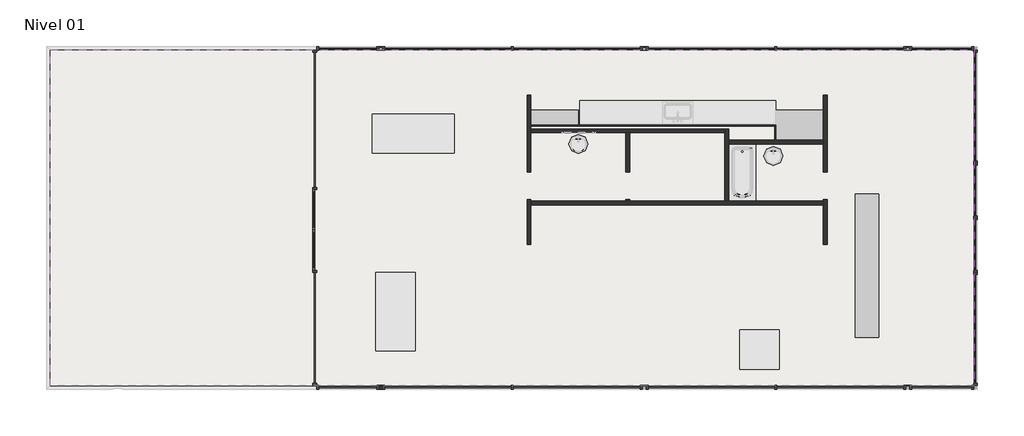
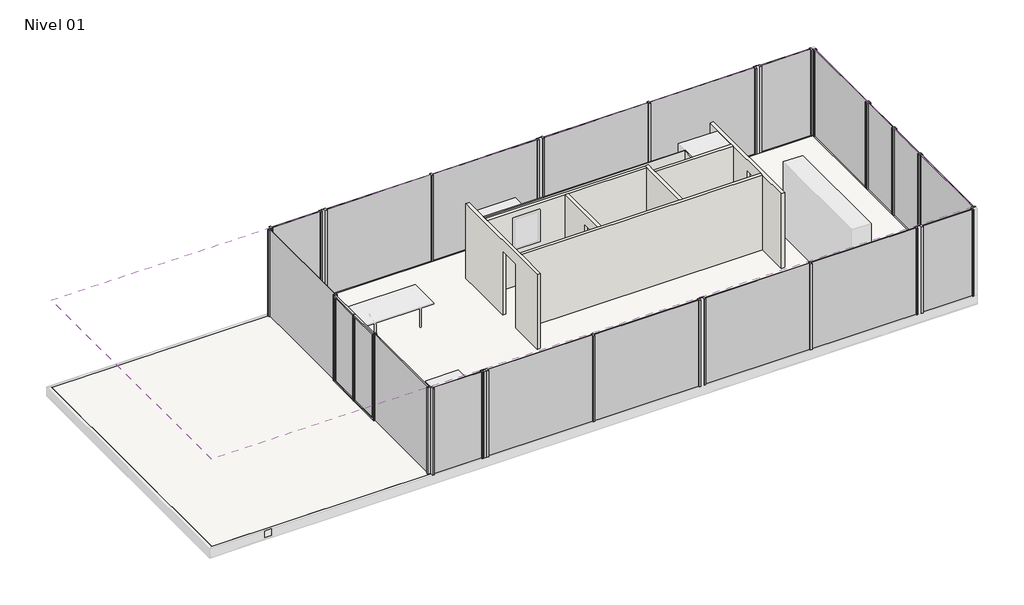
# One storey, part 1 of 2: 32 members, 20 plates, 9 walls, 1 column, 1 covering, 1 slab.
"""IFC4 building model written with IfcOpenShell, lengths in millimetres."""

from ifc_helpers import new_model, si_unit, frame, origin, place, context, project, spatial, polyline, outline, extrude, faceted_brep, transform, mapped, element, save
from components import montante_rectangular_636dfbc0, montante_rectangular_130be25c, montante_rectangular_montante_rectangular_5_x_10_cm_7b851dd1, montante_rectangular_montante_rectangular_5_x_10_cm_ceddc77e, montante_rectangular_montante_rectangular_5_x_10_cm_4366589c, montante_rectangular_montante_rectangular_5_x_10_cm_83dea609, montante_rectangular_montante_rectangular_5_x_10_cm_d18d0f95, montante_rectangular_montante_rectangular_5_x_10_cm_97dcbfa1, panel_acristalado_a23f5c5c, panel_de_sistema_acristalado_16543b9d, panel_de_sistema_acristalado_84c5b434, panel_de_sistema_acristalado_27682961, panel_de_sistema_acristalado_3b98ec13, panel_de_sistema_acristalado_0d9a003f, panel_de_sistema_acristalado_c61f1210, panel_de_sistema_acristalado_69a41de7, panel_de_sistema_acristalado_a5853300, panel_de_sistema_acristalado_f31e4230, panel_de_sistema_acristalado_258ec6b1, panel_de_sistema_acristalado_1c6b91d4, panel_de_sistema_acristalado_2d9a16bb, panel_de_sistema_acristalado_386d4e2f, panel_de_sistema_acristalado_c428148b

model = new_model("IFC4")

# Units and contexts
model_context = context("Model", 3, world=origin())
ifc_project = project(units=[si_unit("LENGTHUNIT", "METRE", prefix="MILLI")], contexts=[model_context])

# Site, building, storey
site = spatial("IfcSite", under=ifc_project)
building = spatial("IfcBuilding", under=site)
storey = spatial("IfcBuildingStorey", under=building, Name="Nivel 01", Elevation=1430.0)

# Column
placement = place(None, origin())
element("IfcColumn", 1, ObjectType="Pilar SQS : SQS 100x100", at=placement, inside=storey, context=model_context, shape_type="SweptSolid", body=[
    extrude(outline(polyline([(-759.4601106, -3393.1309012), (-759.4601106, -3493.1309012), (-859.4601106, -3493.1309012), (-859.4601106, -3393.1309012), (-759.4601106, -3393.1309012)])), frame((0.0, 0.0, 1430.0), z_axis=(0.0, 0.0, 1.0), x_axis=(1.0, 0.0, 0.0)), (0.0, 0.0, 1.0), 2820.0),
])

# Covering
element("IfcCovering", 2, ObjectType="Techo de PYL", at=placement, inside=storey, context=model_context, shape_type="SweptSolid", body=[
    extrude(outline(polyline([(14312.772648, 5166.3380644), (14312.772648, -3412.1309012), (-9219.7825244, -3412.1309012), (-9219.7825244, 5166.3380644), (14312.772648, 5166.3380644)])), frame((0.0, 0.0, 4280.0), z_axis=(0.0, 0.0, 1.0), x_axis=(1.0, 0.0, 0.0)), (0.0, 0.0, 1.0), 15.0),
])

# Members
montante_rectangular_shape = montante_rectangular_636dfbc0(model_context)
element("IfcMember", 3, ObjectType="Montante rectangular : Montante rectangular (encuentro pilares) 5 x 10 cm", at=placement, inside=storey, context=model_context, shape_type="MappedRepresentation", body=[
    mapped(montante_rectangular_shape, transform((-809.4601106, 5197.4380644, 1430.0), x_axis=(1.0, 0.0, 0.0), y_axis=(0.0, -1.0, 0.0), z_axis=(0.0, 0.0, -1.0))),
])
element("IfcMember", 4, ObjectType="Montante rectangular : Montante rectangular (encuentro pilares) 5 x 10 cm", at=placement, inside=storey, context=model_context, shape_type="MappedRepresentation", body=[
    mapped(montante_rectangular_shape, transform((5902.3416135, 5197.4380644, 1430.0), x_axis=(1.0, 0.0, 0.0), y_axis=(0.0, -1.0, 0.0), z_axis=(0.0, 0.0, -1.0))),
])
element("IfcMember", 5, ObjectType="Montante rectangular : Montante rectangular (encuentro pilares) 5 x 10 cm", at=placement, inside=storey, context=model_context, shape_type="MappedRepresentation", body=[
    mapped(montante_rectangular_shape, transform((12614.134717, 5197.4380644, 1430.0), x_axis=(1.0, 0.0, 0.0), y_axis=(0.0, -1.0, 0.0), z_axis=(0.0, 0.0, -1.0))),
])
element("IfcMember", 6, ObjectType="Montante rectangular : Montante rectangular (encuentro pilares) 5 x 10 cm", at=placement, inside=storey, context=model_context, shape_type="MappedRepresentation", body=[
    mapped(montante_rectangular_shape, transform((12614.134717, -3443.1309012, 1430.0), x_axis=(1.0, 0.0, 0.0), y_axis=(0.0, -1.0, 0.0), z_axis=(0.0, 0.0, -1.0))),
])
element("IfcMember", 7, ObjectType="Montante rectangular : Montante rectangular (encuentro pilares) 5 x 10 cm", at=placement, inside=storey, context=model_context, shape_type="MappedRepresentation", body=[
    mapped(montante_rectangular_shape, transform((5902.3416135, -3443.1309012, 1430.0), x_axis=(1.0, 0.0, 0.0), y_axis=(0.0, -1.0, 0.0), z_axis=(0.0, 0.0, -1.0))),
])
element("IfcMember", 8, ObjectType="Montante rectangular : Montante rectangular (encuentro pilares)-iz 5 x 10 cm", at=placement, inside=storey, context=model_context, shape_type="MappedRepresentation", body=[
    mapped(montante_rectangular_shape, transform((-809.4601106, 5197.4380644, 4250.0), x_axis=(-1.0, 0.0, 0.0), y_axis=(0.0, -1.0, 0.0), z_axis=(0.0, 0.0, 1.0))),
])
element("IfcMember", 9, ObjectType="Montante rectangular : Montante rectangular (encuentro pilares)-iz 5 x 10 cm", at=placement, inside=storey, context=model_context, shape_type="MappedRepresentation", body=[
    mapped(montante_rectangular_shape, transform((5902.3416135, 5197.4380644, 4250.0), x_axis=(-1.0, 0.0, 0.0), y_axis=(0.0, -1.0, 0.0), z_axis=(0.0, 0.0, 1.0))),
])
element("IfcMember", 10, ObjectType="Montante rectangular : Montante rectangular (encuentro pilares)-iz 5 x 10 cm", at=placement, inside=storey, context=model_context, shape_type="MappedRepresentation", body=[
    mapped(montante_rectangular_shape, transform((12614.134717, 5197.4380644, 4250.0), x_axis=(-1.0, 0.0, 0.0), y_axis=(0.0, -1.0, 0.0), z_axis=(0.0, 0.0, 1.0))),
])
element("IfcMember", 11, ObjectType="Montante rectangular : Montante rectangular (encuentro pilares)-iz 5 x 10 cm", at=placement, inside=storey, context=model_context, shape_type="MappedRepresentation", body=[
    mapped(montante_rectangular_shape, transform((12614.134717, -3443.1309012, 4250.0), x_axis=(-1.0, 0.0, 0.0), y_axis=(0.0, -1.0, 0.0), z_axis=(0.0, 0.0, 1.0))),
])
element("IfcMember", 12, ObjectType="Montante rectangular : Montante rectangular (encuentro pilares)-iz 5 x 10 cm", at=placement, inside=storey, context=model_context, shape_type="MappedRepresentation", body=[
    mapped(montante_rectangular_shape, transform((5902.3416135, -3443.1309012, 4250.0), x_axis=(-1.0, 0.0, 0.0), y_axis=(0.0, -1.0, 0.0), z_axis=(0.0, 0.0, 1.0))),
])
element("IfcMember", 13, ObjectType="Montante rectangular : Montante rectangular (encuentro pilares)-iz 5 x 10 cm", at=placement, inside=storey, context=model_context, shape_type="MappedRepresentation", body=[
    mapped(montante_rectangular_shape, transform((-809.4601106, -3443.1309012, 4250.0), x_axis=(-1.0, 0.0, 0.0), y_axis=(0.0, -1.0, 0.0), z_axis=(0.0, 0.0, 1.0))),
])
montante_rectangular_2_shape = montante_rectangular_130be25c(model_context)
element("IfcMember", 14, ObjectType="Montante rectangular : Montante rectangular (encuentro pilares)-iz 5 x 10 cm", at=placement, inside=storey, context=model_context, shape_type="MappedRepresentation", body=[
    mapped(montante_rectangular_2_shape, transform((-809.4601106, -3443.1309012, 4250.0), x_axis=(1.0, 0.0, 0.0), y_axis=(0.0, 1.0, 0.0), z_axis=(0.0, 0.0, 1.0))),
])
montante_rectangular_montante_rectangular_5_x_10_cm_shape = montante_rectangular_montante_rectangular_5_x_10_cm_7b851dd1(model_context)
element("IfcMember", 15, ObjectType="Montante rectangular : Montante rectangular - 5 x 10 cm", at=placement, inside=storey, context=model_context, shape_type="MappedRepresentation", body=[
    mapped(montante_rectangular_montante_rectangular_5_x_10_cm_shape, transform((14343.772648, -543.5964184, 1430.0), x_axis=(0.0, -1.0, 0.0), y_axis=(-1.0, 0.0, 0.0), z_axis=(0.0, 0.0, -1.0))),
])
element("IfcMember", 16, ObjectType="Montante rectangular : Montante rectangular - 5 x 10 cm", at=placement, inside=storey, context=model_context, shape_type="MappedRepresentation", body=[
    mapped(montante_rectangular_montante_rectangular_5_x_10_cm_shape, transform((14343.772648, -493.5964184, 1430.0), x_axis=(0.0, -1.0, 0.0), y_axis=(-1.0, 0.0, 0.0), z_axis=(0.0, 0.0, -1.0))),
])
element("IfcMember", 17, ObjectType="Montante rectangular : Montante rectangular - 5 x 10 cm", at=placement, inside=storey, context=model_context, shape_type="MappedRepresentation", body=[
    mapped(montante_rectangular_montante_rectangular_5_x_10_cm_shape, transform((14343.772648, 854.696685, 1430.0), x_axis=(0.0, -1.0, 0.0), y_axis=(-1.0, 0.0, 0.0), z_axis=(0.0, 0.0, -1.0))),
])
element("IfcMember", 18, ObjectType="Montante rectangular : Montante rectangular - 5 x 10 cm", at=placement, inside=storey, context=model_context, shape_type="MappedRepresentation", body=[
    mapped(montante_rectangular_montante_rectangular_5_x_10_cm_shape, transform((14343.772648, 904.696685, 1430.0), x_axis=(0.0, -1.0, 0.0), y_axis=(-1.0, 0.0, 0.0), z_axis=(0.0, 0.0, -1.0))),
])
element("IfcMember", 19, ObjectType="Montante rectangular : Montante rectangular - 5 x 10 cm", at=placement, inside=storey, context=model_context, shape_type="MappedRepresentation", body=[
    mapped(montante_rectangular_montante_rectangular_5_x_10_cm_shape, transform((14343.772648, 2251.8690988, 1430.0), x_axis=(0.0, -1.0, 0.0), y_axis=(-1.0, 0.0, 0.0), z_axis=(0.0, 0.0, -1.0))),
])
element("IfcMember", 20, ObjectType="Montante rectangular : Montante rectangular - 5 x 10 cm", at=placement, inside=storey, context=model_context, shape_type="MappedRepresentation", body=[
    mapped(montante_rectangular_montante_rectangular_5_x_10_cm_shape, transform((14343.772648, 2306.8690988, 1430.0), x_axis=(0.0, -1.0, 0.0), y_axis=(-1.0, 0.0, 0.0), z_axis=(0.0, 0.0, -1.0))),
])
element("IfcMember", 21, ObjectType="Montante rectangular : Montante rectangular - 5 x 10 cm", at=placement, inside=storey, context=model_context, shape_type="MappedRepresentation", body=[
    mapped(montante_rectangular_montante_rectangular_5_x_10_cm_shape, transform((-2487.3997658, 1625.0242713, 1430.0), x_axis=(0.0, 1.0, 0.0), y_axis=(1.0, 0.0, 0.0), z_axis=(0.0, 0.0, -1.0))),
])
element("IfcMember", 22, ObjectType="Montante rectangular : Montante rectangular - 5 x 10 cm", at=placement, inside=storey, context=model_context, shape_type="MappedRepresentation", body=[
    mapped(montante_rectangular_montante_rectangular_5_x_10_cm_shape, transform((-2487.3997658, -484.2688322, 1430.0), x_axis=(0.0, 1.0, 0.0), y_axis=(1.0, 0.0, 0.0), z_axis=(0.0, 0.0, -1.0))),
])
montante_rectangular_montante_rectangular_5_x_10_cm_2_shape = montante_rectangular_montante_rectangular_5_x_10_cm_ceddc77e(model_context)
element("IfcMember", 23, ObjectType="Montante rectangular : Montante rectangular - 5 x 10 cm", at=placement, inside=storey, context=model_context, shape_type="MappedRepresentation", body=[
    mapped(montante_rectangular_montante_rectangular_5_x_10_cm_2_shape, transform((-2487.3997658, 5147.4380644, 1430.0), x_axis=(0.0, 1.0, 0.0), y_axis=(1.0, 0.0, 0.0), z_axis=(0.0, 0.0, -1.0))),
])
element("IfcMember", 24, ObjectType="Montante rectangular : Montante rectangular - 5 x 10 cm", at=placement, inside=storey, context=model_context, shape_type="MappedRepresentation", body=[
    mapped(montante_rectangular_montante_rectangular_5_x_10_cm_2_shape, transform((14343.772648, -3393.1309012, 1430.0), x_axis=(0.0, -1.0, 0.0), y_axis=(-1.0, 0.0, 0.0), z_axis=(0.0, 0.0, -1.0))),
])
element("IfcMember", 25, ObjectType="Montante rectangular : Montante rectangular - 5 x 10 cm", at=placement, inside=storey, context=model_context, shape_type="MappedRepresentation", body=[
    mapped(montante_rectangular_montante_rectangular_5_x_10_cm_2_shape, transform((-2439.4601106, -3443.1309012, 1430.0), x_axis=(-1.0, 0.0, 0.0), y_axis=(0.0, 1.0, 0.0), z_axis=(0.0, 0.0, -1.0))),
])
montante_rectangular_montante_rectangular_5_x_10_cm_3_shape = montante_rectangular_montante_rectangular_5_x_10_cm_4366589c(model_context)
element("IfcMember", 26, ObjectType="Montante rectangular : Montante rectangular - 5 x 10 cm", at=placement, inside=storey, context=model_context, shape_type="MappedRepresentation", body=[
    mapped(montante_rectangular_montante_rectangular_5_x_10_cm_3_shape, transform((-2487.3997658, -3393.1309012, 4250.0), x_axis=(0.0, -1.0, 0.0), y_axis=(1.0, 0.0, 0.0), z_axis=(0.0, 0.0, 1.0))),
])
element("IfcMember", 27, ObjectType="Montante rectangular : Montante rectangular - 5 x 10 cm", at=placement, inside=storey, context=model_context, shape_type="MappedRepresentation", body=[
    mapped(montante_rectangular_montante_rectangular_5_x_10_cm_3_shape, transform((14343.772648, 5147.4380644, 4250.0), x_axis=(0.0, 1.0, 0.0), y_axis=(-1.0, 0.0, 0.0), z_axis=(0.0, 0.0, 1.0))),
])
montante_rectangular_montante_rectangular_5_x_10_cm_4_shape = montante_rectangular_montante_rectangular_5_x_10_cm_83dea609(model_context)
element("IfcMember", 28, ObjectType="Montante rectangular : Montante rectangular - 5 x 10 cm", at=placement, inside=storey, context=model_context, shape_type="MappedRepresentation", body=[
    mapped(montante_rectangular_montante_rectangular_5_x_10_cm_4_shape, transform((2546.0183377, 5197.4380644, 1430.0), x_axis=(1.0, 0.0, 0.0), y_axis=(0.0, -1.0, 0.0), z_axis=(0.0, 0.0, -1.0))),
])
element("IfcMember", 29, ObjectType="Montante rectangular : Montante rectangular - 5 x 10 cm", at=placement, inside=storey, context=model_context, shape_type="MappedRepresentation", body=[
    mapped(montante_rectangular_montante_rectangular_5_x_10_cm_4_shape, transform((9258.2381653, 5197.4380644, 1430.0), x_axis=(1.0, 0.0, 0.0), y_axis=(0.0, -1.0, 0.0), z_axis=(0.0, 0.0, -1.0))),
])
element("IfcMember", 30, ObjectType="Montante rectangular : Montante rectangular - 5 x 10 cm", at=placement, inside=storey, context=model_context, shape_type="MappedRepresentation", body=[
    mapped(montante_rectangular_montante_rectangular_5_x_10_cm_4_shape, transform((9258.2381653, -3443.1309012, 1430.0), x_axis=(1.0, 0.0, 0.0), y_axis=(0.0, -1.0, 0.0), z_axis=(0.0, 0.0, -1.0))),
])
element("IfcMember", 31, ObjectType="Montante rectangular : Montante rectangular - 5 x 10 cm", at=placement, inside=storey, context=model_context, shape_type="MappedRepresentation", body=[
    mapped(montante_rectangular_montante_rectangular_5_x_10_cm_4_shape, transform((2546.4407515, -3443.1309012, 1430.0), x_axis=(1.0, 0.0, 0.0), y_axis=(0.0, -1.0, 0.0), z_axis=(0.0, 0.0, -1.0))),
])
montante_rectangular_montante_rectangular_5_x_10_cm_5_shape = montante_rectangular_montante_rectangular_5_x_10_cm_d18d0f95(model_context)
element("IfcMember", 32, ObjectType="Montante rectangular : Montante rectangular - 5 x 10 cm", at=placement, inside=storey, context=model_context, shape_type="MappedRepresentation", body=[
    mapped(montante_rectangular_montante_rectangular_5_x_10_cm_5_shape, transform((-2437.3997658, 5197.4380644, 4250.0), x_axis=(-1.0, 0.0, 0.0), y_axis=(0.0, -1.0, 0.0), z_axis=(0.0, 0.0, 1.0))),
])
montante_rectangular_montante_rectangular_5_x_10_cm_6_shape = montante_rectangular_montante_rectangular_5_x_10_cm_97dcbfa1(model_context)
element("IfcMember", 33, ObjectType="Montante rectangular : Montante rectangular - 5 x 10 cm", at=placement, inside=storey, context=model_context, shape_type="MappedRepresentation", body=[
    mapped(montante_rectangular_montante_rectangular_5_x_10_cm_6_shape, transform((14293.772648, 5197.4380644, 1430.0), x_axis=(1.0, 0.0, 0.0), y_axis=(0.0, -1.0, 0.0), z_axis=(0.0, 0.0, -1.0))),
])
element("IfcMember", 34, ObjectType="Montante rectangular : Montante rectangular - 5 x 10 cm", at=placement, inside=storey, context=model_context, shape_type="MappedRepresentation", body=[
    mapped(montante_rectangular_montante_rectangular_5_x_10_cm_6_shape, transform((14293.772648, -3443.1309012, 1430.0), x_axis=(1.0, 0.0, 0.0), y_axis=(0.0, -1.0, 0.0), z_axis=(0.0, 0.0, -1.0))),
])

# Plates
panel_acristalado_shape = panel_acristalado_a23f5c5c(model_context)
element("IfcPlate", 35, ObjectType="M_Panel 2 hojas abatibles : Panel acristalado", at=placement, inside=storey, context=model_context, shape_type="MappedRepresentation", body=[
    mapped(panel_acristalado_shape, transform((-2487.3997658, 570.3777195, 1430.0), x_axis=(0.0, 1.0, 0.0), y_axis=(-1.0, 0.0, 0.0), z_axis=(0.0, 0.0, 1.0))),
])
panel_de_sistema_acristalado_shape = panel_de_sistema_acristalado_16543b9d(model_context)
element("IfcPlate", 36, ObjectType="Panel de sistema : Acristalado", at=placement, inside=storey, context=model_context, shape_type="MappedRepresentation", body=[
    mapped(panel_de_sistema_acristalado_shape, transform((14343.772648, 3714.6535816, 1430.0), x_axis=(0.0, -1.0, 0.0), y_axis=(1.0, 0.0, 0.0), z_axis=(0.0, 0.0, 1.0))),
])
panel_de_sistema_acristalado_2_shape = panel_de_sistema_acristalado_84c5b434(model_context)
element("IfcPlate", 37, ObjectType="Panel de sistema : Acristalado", at=placement, inside=storey, context=model_context, shape_type="MappedRepresentation", body=[
    mapped(panel_de_sistema_acristalado_2_shape, transform((14343.772648, -1955.8636598, 1430.0), x_axis=(0.0, -1.0, 0.0), y_axis=(1.0, 0.0, 0.0), z_axis=(0.0, 0.0, 1.0))),
])
panel_de_sistema_acristalado_3_shape = panel_de_sistema_acristalado_27682961(model_context)
element("IfcPlate", 38, ObjectType="Panel de sistema : Acristalado", at=placement, inside=storey, context=model_context, shape_type="MappedRepresentation", body=[
    mapped(panel_de_sistema_acristalado_3_shape, transform((14343.772648, 180.5501333, 1430.0), x_axis=(0.0, -1.0, 0.0), y_axis=(1.0, 0.0, 0.0), z_axis=(0.0, 0.0, 1.0))),
])
panel_de_sistema_acristalado_4_shape = panel_de_sistema_acristalado_3b98ec13(model_context)
element("IfcPlate", 39, ObjectType="Panel de sistema : Acristalado", at=placement, inside=storey, context=model_context, shape_type="MappedRepresentation", body=[
    mapped(panel_de_sistema_acristalado_4_shape, transform((14343.772648, 1578.2828919, 1430.0), x_axis=(0.0, -1.0, 0.0), y_axis=(1.0, 0.0, 0.0), z_axis=(0.0, 0.0, 1.0))),
])
panel_de_sistema_acristalado_5_shape = panel_de_sistema_acristalado_0d9a003f(model_context)
element("IfcPlate", 40, ObjectType="Panel de sistema : Acristalado", at=placement, inside=storey, context=model_context, shape_type="MappedRepresentation", body=[
    mapped(panel_de_sistema_acristalado_5_shape, transform((14343.772648, 2279.3690988, 1430.0), x_axis=(0.0, -1.0, 0.0), y_axis=(1.0, 0.0, 0.0), z_axis=(0.0, 0.0, 1.0))),
])
panel_de_sistema_acristalado_6_shape = panel_de_sistema_acristalado_c61f1210(model_context)
element("IfcPlate", 41, ObjectType="Panel de sistema : Acristalado", at=placement, inside=storey, context=model_context, shape_type="MappedRepresentation", body=[
    mapped(panel_de_sistema_acristalado_6_shape, transform((905.7791135, 5197.4380644, 1430.0), x_axis=(1.0, 0.0, 0.0), y_axis=(0.0, 1.0, 0.0), z_axis=(0.0, 0.0, 1.0))),
])
panel_de_sistema_acristalado_7_shape = panel_de_sistema_acristalado_69a41de7(model_context)
element("IfcPlate", 42, ObjectType="Panel de sistema : Acristalado", at=placement, inside=storey, context=model_context, shape_type="MappedRepresentation", body=[
    mapped(panel_de_sistema_acristalado_7_shape, transform((7617.7898894, 5197.4380644, 1430.0), x_axis=(1.0, 0.0, 0.0), y_axis=(0.0, 1.0, 0.0), z_axis=(0.0, 0.0, 1.0))),
])
element("IfcPlate", 43, ObjectType="Panel de sistema : Acristalado", at=placement, inside=storey, context=model_context, shape_type="MappedRepresentation", body=[
    mapped(panel_de_sistema_acristalado_7_shape, transform((7617.7898894, -3443.1309012, 1430.0), x_axis=(1.0, 0.0, 0.0), y_axis=(0.0, 1.0, 0.0), z_axis=(0.0, 0.0, 1.0))),
])
element("IfcPlate", 44, ObjectType="Panel de sistema : Acristalado", at=placement, inside=storey, context=model_context, shape_type="MappedRepresentation", body=[
    mapped(panel_de_sistema_acristalado_7_shape, transform((10898.6864411, 5197.4380644, 1430.0), x_axis=(1.0, 0.0, 0.0), y_axis=(0.0, 1.0, 0.0), z_axis=(0.0, 0.0, 1.0))),
])
element("IfcPlate", 45, ObjectType="Panel de sistema : Acristalado", at=placement, inside=storey, context=model_context, shape_type="MappedRepresentation", body=[
    mapped(panel_de_sistema_acristalado_7_shape, transform((10898.6864411, -3443.1309012, 1430.0), x_axis=(1.0, 0.0, 0.0), y_axis=(0.0, 1.0, 0.0), z_axis=(0.0, 0.0, 1.0))),
])
panel_de_sistema_acristalado_8_shape = panel_de_sistema_acristalado_a5853300(model_context)
element("IfcPlate", 46, ObjectType="Panel de sistema : Acristalado", at=placement, inside=storey, context=model_context, shape_type="MappedRepresentation", body=[
    mapped(panel_de_sistema_acristalado_8_shape, transform((13478.9536825, 5197.4380644, 1430.0), x_axis=(1.0, 0.0, 0.0), y_axis=(0.0, 1.0, 0.0), z_axis=(0.0, 0.0, 1.0))),
])
element("IfcPlate", 47, ObjectType="Panel de sistema : Acristalado", at=placement, inside=storey, context=model_context, shape_type="MappedRepresentation", body=[
    mapped(panel_de_sistema_acristalado_8_shape, transform((13478.9536825, -3443.1309012, 1430.0), x_axis=(1.0, 0.0, 0.0), y_axis=(0.0, 1.0, 0.0), z_axis=(0.0, 0.0, 1.0))),
])
panel_de_sistema_acristalado_9_shape = panel_de_sistema_acristalado_f31e4230(model_context)
element("IfcPlate", 48, ObjectType="Panel de sistema : Acristalado", at=placement, inside=storey, context=model_context, shape_type="MappedRepresentation", body=[
    mapped(panel_de_sistema_acristalado_9_shape, transform((905.9903204, -3443.1309012, 1430.0), x_axis=(1.0, 0.0, 0.0), y_axis=(0.0, 1.0, 0.0), z_axis=(0.0, 0.0, 1.0))),
])
element("IfcPlate", 49, ObjectType="Panel de sistema : Acristalado", at=placement, inside=storey, context=model_context, shape_type="MappedRepresentation", body=[
    mapped(panel_de_sistema_acristalado_9_shape, transform((4186.8911825, -3443.1309012, 1430.0), x_axis=(1.0, 0.0, 0.0), y_axis=(0.0, 1.0, 0.0), z_axis=(0.0, 0.0, 1.0))),
])
panel_de_sistema_acristalado_10_shape = panel_de_sistema_acristalado_258ec6b1(model_context)
element("IfcPlate", 50, ObjectType="Panel de sistema : Acristalado", at=placement, inside=storey, context=model_context, shape_type="MappedRepresentation", body=[
    mapped(panel_de_sistema_acristalado_10_shape, transform((4186.6799756, 5197.4380644, 1430.0), x_axis=(1.0, 0.0, 0.0), y_axis=(0.0, 1.0, 0.0), z_axis=(0.0, 0.0, 1.0))),
])
panel_de_sistema_acristalado_11_shape = panel_de_sistema_acristalado_1c6b91d4(model_context)
element("IfcPlate", 51, ObjectType="Panel de sistema : Acristalado", at=placement, inside=storey, context=model_context, shape_type="MappedRepresentation", body=[
    mapped(panel_de_sistema_acristalado_11_shape, transform((-1648.4299382, 5197.4380644, 1430.0), x_axis=(1.0, 0.0, 0.0), y_axis=(0.0, 1.0, 0.0), z_axis=(0.0, 0.0, 1.0))),
])
panel_de_sistema_acristalado_12_shape = panel_de_sistema_acristalado_2d9a16bb(model_context)
element("IfcPlate", 52, ObjectType="Panel de sistema : Acristalado", at=placement, inside=storey, context=model_context, shape_type="MappedRepresentation", body=[
    mapped(panel_de_sistema_acristalado_12_shape, transform((-2487.3997658, 3373.7311678, 1430.0), x_axis=(0.0, 1.0, 0.0), y_axis=(-1.0, 0.0, 0.0), z_axis=(0.0, 0.0, 1.0))),
])
panel_de_sistema_acristalado_13_shape = panel_de_sistema_acristalado_386d4e2f(model_context)
element("IfcPlate", 53, ObjectType="Panel de sistema : Acristalado", at=placement, inside=storey, context=model_context, shape_type="MappedRepresentation", body=[
    mapped(panel_de_sistema_acristalado_13_shape, transform((-2487.3997658, -1926.1998667, 1430.0), x_axis=(0.0, 1.0, 0.0), y_axis=(-1.0, 0.0, 0.0), z_axis=(0.0, 0.0, 1.0))),
])
panel_de_sistema_acristalado_14_shape = panel_de_sistema_acristalado_c428148b(model_context)
element("IfcPlate", 54, ObjectType="Panel de sistema : Acristalado", at=placement, inside=storey, context=model_context, shape_type="MappedRepresentation", body=[
    mapped(panel_de_sistema_acristalado_14_shape, transform((-1649.4601106, -3443.1309012, 1430.0), x_axis=(-1.0, 0.0, 0.0), y_axis=(0.0, -1.0, 0.0), z_axis=(0.0, 0.0, 1.0))),
])

# Slab
element("IfcSlab", 55, ObjectType="Mies - 35 cm", at=placement, inside=storey, context=model_context, shape_type="SweptSolid", body=[
    extrude(outline(polyline([(-9219.7825244, -3411.9576775), (-9219.7825244, 5147.4380644), (14293.772648, 5147.4380644), (14293.772648, -3411.9576775), (-9219.7825244, -3411.9576775)])), frame((0.0, 0.0, 1380.0), z_axis=(0.0, 0.0, 1.0), x_axis=(1.0, 0.0, 0.0)), (0.0, 0.0, 1.0), 50.0),
    extrude(outline(polyline([(-9219.7825244, -3411.9576775), (-9219.7825244, 5147.4380644), (14293.772648, 5147.4380644), (14293.772648, -3411.9576775), (-9219.7825244, -3411.9576775)])), frame((0.0, 0.0, 1110.0), z_axis=(0.0, 0.0, 1.0), x_axis=(1.0, 0.0, 0.0)), (0.0, 0.0, 1.0), 270.0),
])

# Walls
element("IfcWall", 56, ObjectType="_Mies_10cm Madera", at=placement, inside=storey, context=model_context, shape_type="Brep", body=[
    faceted_brep([(10463.2898894, 1301.7311678, 1430.0), (8053.1519584, 1301.7311678, 1430.0), (7953.1519584, 1301.7311678, 1430.0), (5536.2209239, 1301.7311678, 1430.0), (5436.2209239, 1301.7311678, 1430.0), (3019.3243722, 1301.7311678, 1430.0), (3019.3243722, 1301.7311678, 3880.0), (5436.2209239, 1301.7311678, 3880.0), (5536.2209239, 1301.7311678, 3880.0), (7953.1519584, 1301.7311678, 3880.0), (8053.1519584, 1301.7311678, 3880.0), (10463.2898894, 1301.7311678, 3880.0), (10463.2898894, 1201.7311678, 1430.0), (10463.2898894, 1201.7311678, 3880.0), (3019.3243722, 1201.7311678, 3880.0), (3019.3243722, 1201.7311678, 1430.0)], [[[0, 1, 2, 3, 4, 5, 6, 7, 8, 9, 10, 11]], [[12, 13, 14, 15]], [[5, 4, 3, 2, 1, 0, 12, 15]], [[11, 10, 9, 8, 7, 6, 14, 13]], [[6, 5, 15, 14]], [[0, 11, 13, 12]]]),
])
element("IfcWall", 57, ObjectType="_Mies_10cm Madera", at=placement, inside=storey, context=model_context, shape_type="Brep", body=[
    faceted_brep([(10463.2898894, 2862.7311678, 1430.0), (9258.2209239, 2862.7311678, 1430.0), (9228.2209239, 2862.7311678, 1430.0), (8053.1519584, 2862.7311678, 1430.0), (8053.1519584, 2862.7311678, 3880.0), (9228.2209239, 2862.7311678, 3880.0), (9258.2209239, 2862.7311678, 3880.0), (10463.2898894, 2862.7311678, 3880.0), (10463.2898894, 2762.7311678, 1430.0), (10463.2898894, 2762.7311678, 3880.0), (8053.1519584, 2762.7311678, 3880.0), (8053.1519584, 2762.7311678, 1430.0)], [[[0, 1, 2, 3, 4, 5, 6, 7]], [[8, 9, 10, 11]], [[3, 2, 1, 0, 8, 11]], [[7, 6, 5, 4, 10, 9]], [[4, 3, 11, 10]], [[0, 7, 9, 8]]]),
])
element("IfcWall", 58, ObjectType="_Mies_10cm Madera", at=placement, inside=storey, context=model_context, shape_type="Brep", body=[
    faceted_brep([(7953.1519584, 3139.1622023, 1430.0), (7953.1519584, 3049.1622023, 1430.0), (7953.1519584, 1301.7311678, 1430.0), (7953.1519584, 1301.7311678, 3880.0), (7953.1519584, 3049.1622023, 3880.0), (7953.1519584, 3139.1622023, 3880.0), (8053.1519584, 3139.1622023, 1430.0), (8053.1519584, 3139.1622023, 3880.0), (8053.1519584, 2862.7311678, 3880.0), (8053.1519584, 2762.7311678, 3880.0), (8053.1519584, 1301.7311678, 3880.0), (8053.1519584, 1301.7311678, 1430.0), (8053.1519584, 2762.7311678, 1430.0), (8053.1519584, 2862.7311678, 1430.0)], [[[0, 1, 2, 3, 4, 5]], [[6, 7, 8, 9, 10, 11, 12, 13]], [[2, 1, 0, 6, 13, 12, 11]], [[5, 4, 3, 10, 9, 8, 7]], [[3, 2, 11, 10]], [[0, 5, 7, 6]]]),
])
element("IfcWall", 59, ObjectType="_Mies_9cm Madera", at=placement, inside=storey, context=model_context, shape_type="Brep", body=[
    faceted_brep([(7953.1519584, 3139.1622023, 1430.0), (3019.3243722, 3139.1622023, 1430.0), (3019.3243722, 3139.1622023, 3880.0), (7953.1519584, 3139.1622023, 3880.0), (7953.1519584, 3049.1622023, 1430.0), (7953.1519584, 3049.1622023, 3880.0), (5536.2209239, 3049.1622023, 3880.0), (5436.2209239, 3049.1622023, 3880.0), (3019.3243722, 3049.1622023, 3880.0), (3019.3243722, 3049.1622023, 1430.0), (5436.2209239, 3049.1622023, 1430.0), (5536.2209239, 3049.1622023, 1430.0)], [[[0, 1, 2, 3]], [[4, 5, 6, 7, 8, 9, 10, 11]], [[1, 0, 4, 11, 10, 9]], [[3, 2, 8, 7, 6, 5]], [[0, 3, 5, 4]], [[2, 1, 9, 8]]]),
])
element("IfcWall", 60, ObjectType="_Mies_10cm Madera", at=placement, inside=storey, context=model_context, shape_type="Brep", body=[
    faceted_brep([(2919.3243722, 193.2656506, 1430.0), (2919.3243722, 193.2656506, 3880.0), (2919.3243722, 4006.7828919, 3880.0), (2919.3243722, 4006.7828919, 1430.0), (2919.3243722, 2045.8001333, 1430.0), (2919.3243722, 2045.8001333, 3530.0), (2919.3243722, 1345.8001333, 3530.0), (2919.3243722, 1345.8001333, 1430.0), (3019.3243722, 193.2656506, 3880.0), (3019.3243722, 193.2656506, 1430.0), (3019.3243722, 1201.7311678, 1430.0), (3019.3243722, 1301.7311678, 1430.0), (3019.3243722, 1345.8001333, 1430.0), (3019.3243722, 1345.8001333, 3530.0), (3019.3243722, 2045.8001333, 3530.0), (3019.3243722, 2045.8001333, 1430.0), (3019.3243722, 3049.1622023, 1430.0), (3019.3243722, 3139.1622023, 1430.0), (3019.3243722, 3214.0759954, 1430.0), (3019.3243722, 3244.0759954, 1430.0), (3019.3243722, 4006.7828919, 1430.0), (3019.3243722, 4006.7828919, 3880.0), (3019.3243722, 3244.0759954, 3880.0), (3019.3243722, 3214.0759954, 3880.0), (3019.3243722, 3139.1622023, 3880.0), (3019.3243722, 3049.1622023, 3880.0), (3019.3243722, 1301.7311678, 3880.0), (3019.3243722, 1201.7311678, 3880.0)], [[[0, 1, 2, 3, 4, 5, 6, 7]], [[8, 9, 10, 11, 12, 13, 14, 15, 16, 17, 18, 19, 20, 21, 22, 23, 24, 25, 26, 27]], [[9, 0, 7, 12, 11, 10]], [[3, 20, 19, 18, 17, 16, 15, 4]], [[1, 0, 9, 8]], [[2, 1, 8, 27, 26, 25, 24, 23, 22, 21]], [[3, 2, 21, 20]], [[6, 13, 12, 7]], [[13, 6, 5, 14]], [[14, 5, 4, 15]]]),
])
element("IfcWall", 61, ObjectType="_Mies_10cm Madera", at=placement, inside=storey, context=model_context, shape_type="Brep", body=[
    faceted_brep([(10463.2898894, 193.2656506, 1430.0), (10463.2898894, 193.2656506, 3880.0), (10463.2898894, 1201.7311678, 3880.0), (10463.2898894, 1301.7311678, 3880.0), (10463.2898894, 2762.7311678, 3880.0), (10463.2898894, 2862.7311678, 3880.0), (10463.2898894, 4006.7828919, 3880.0), (10463.2898894, 4006.7828919, 1430.0), (10463.2898894, 2862.7311678, 1430.0), (10463.2898894, 2762.7311678, 1430.0), (10463.2898894, 2045.8001333, 1430.0), (10463.2898894, 2045.8001333, 3530.0), (10463.2898894, 1345.8001333, 3530.0), (10463.2898894, 1345.8001333, 1430.0), (10463.2898894, 1301.7311678, 1430.0), (10463.2898894, 1201.7311678, 1430.0), (10563.2898894, 193.2656506, 3880.0), (10563.2898894, 193.2656506, 1430.0), (10563.2898894, 1345.8001333, 1430.0), (10563.2898894, 1345.8001333, 3530.0), (10563.2898894, 2045.8001333, 3530.0), (10563.2898894, 2045.8001333, 1430.0), (10563.2898894, 4006.7828919, 1430.0), (10563.2898894, 4006.7828919, 3880.0)], [[[0, 1, 2, 3, 4, 5, 6, 7, 8, 9, 10, 11, 12, 13, 14, 15]], [[16, 17, 18, 19, 20, 21, 22, 23]], [[17, 0, 15, 14, 13, 18]], [[7, 22, 21, 10, 9, 8]], [[1, 0, 17, 16]], [[6, 5, 4, 3, 2, 1, 16, 23]], [[7, 6, 23, 22]], [[12, 19, 18, 13]], [[19, 12, 11, 20]], [[20, 11, 10, 21]]]),
])
element("IfcWall", 62, ObjectType="_Mies_10cm Madera", at=placement, inside=storey, context=model_context, shape_type="SweptSolid", body=[
    extrude(outline(polyline([(1301.7311678, 3880.0), (3049.1622023, 3880.0), (3049.1622023, 1430.0), (2045.8001333, 1430.0), (2045.8001333, 3530.0), (1345.8001333, 3530.0), (1345.8001333, 1430.0), (1301.7311678, 1430.0), (1301.7311678, 3880.0)])), frame((5436.2209239, 0.0, 0.0), z_axis=(1.0, 0.0, 0.0), x_axis=(0.0, 1.0, 0.0)), (0.0, 0.0, 1.0), 100.0),
])
element("IfcWall", 63, ObjectType="Por defecto - 3 cm madera", at=placement, inside=storey, context=model_context, shape_type="Brep", body=[
    faceted_brep([(9258.2209239, 3244.0759954, 1430.0), (3019.3243722, 3244.0759954, 1430.0), (3019.3243722, 3244.0759954, 3880.0), (9258.2209239, 3244.0759954, 3880.0), (9258.2209239, 3214.0759954, 1430.0), (9258.2209239, 3214.0759954, 3880.0), (9228.2209239, 3214.0759954, 3880.0), (3019.3243722, 3214.0759954, 3880.0), (3019.3243722, 3214.0759954, 1430.0), (9228.2209239, 3214.0759954, 1430.0)], [[[0, 1, 2, 3]], [[4, 5, 6, 7, 8, 9]], [[1, 0, 4, 9, 8]], [[3, 2, 7, 6, 5]], [[0, 3, 5, 4]], [[2, 1, 8, 7]]]),
])
element("IfcWall", 64, ObjectType="Por defecto - 3 cm madera", at=placement, inside=storey, context=model_context, shape_type="SweptSolid", body=[
    extrude(outline(polyline([(9228.2209239, 2862.7311678), (9228.2209239, 3214.0759954), (9258.2209239, 3214.0759954), (9258.2209239, 2862.7311678), (9228.2209239, 2862.7311678)])), frame((0.0, 0.0, 1430.0), z_axis=(0.0, 0.0, 1.0), x_axis=(1.0, 0.0, 0.0)), (0.0, 0.0, 1.0), 2450.0),
])

save(model, "model.ifc")
